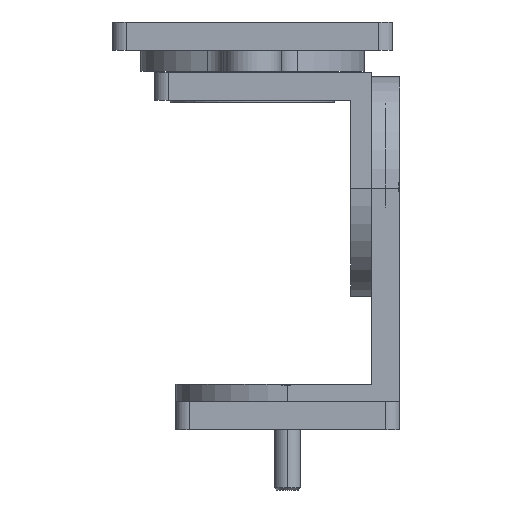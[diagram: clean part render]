
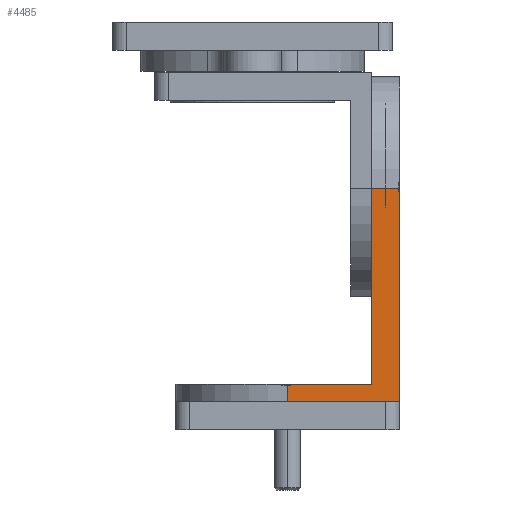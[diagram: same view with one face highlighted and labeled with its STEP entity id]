
A CAD part, left-side view. The second image highlights one B-rep face of the part: STEP entity #4485.
In plain terms, the highlighted planar face has unit normal (-1, 0, 0) as drawn and (0, 0, -1) by its records, which use the part's own axes.
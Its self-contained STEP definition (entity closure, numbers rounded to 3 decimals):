
#322 = LINE ( 'NONE', #5723, #709 ) ;
#483 = PLANE ( 'NONE',  #7676 ) ;
#644 = DIRECTION ( 'NONE',  ( 1., 0., 0. ) ) ;
#675 = LINE ( 'NONE', #7337, #2477 ) ;
#709 = VECTOR ( 'NONE', #5672, 1000. ) ;
#735 = VERTEX_POINT ( 'NONE', #1461 ) ;
#955 = VERTEX_POINT ( 'NONE', #5780 ) ;
#1461 = CARTESIAN_POINT ( 'NONE',  ( 6.35, 50.8, -25.4 ) ) ;
#1518 = ORIENTED_EDGE ( 'NONE', *, *, #2156, .F. ) ;
#1796 = CARTESIAN_POINT ( 'NONE',  ( 13.176, 25.876, -25.4 ) ) ;
#2068 = ORIENTED_EDGE ( 'NONE', *, *, #4199, .F. ) ;
#2156 = EDGE_CURVE ( 'NONE', #3973, #735, #7434, .T. ) ;
#2263 = VERTEX_POINT ( 'NONE', #5319 ) ;
#2437 = VECTOR ( 'NONE', #3209, 1000. ) ;
#2477 = VECTOR ( 'NONE', #3118, 1000. ) ;
#2748 = CARTESIAN_POINT ( 'NONE',  ( 0., 2.381, -25.4 ) ) ;
#3118 = DIRECTION ( 'NONE',  ( 0., -1., 0. ) ) ;
#3170 = LINE ( 'NONE', #4996, #3323 ) ;
#3209 = DIRECTION ( 'NONE',  ( 1., 0., 0. ) ) ;
#3323 = VECTOR ( 'NONE', #4385, 1000. ) ;
#3423 = CARTESIAN_POINT ( 'NONE',  ( 6.35, 6.35, -25.4 ) ) ;
#3430 = ORIENTED_EDGE ( 'NONE', *, *, #4329, .F. ) ;
#3653 = ORIENTED_EDGE ( 'NONE', *, *, #5377, .F. ) ;
#3858 = EDGE_LOOP ( 'NONE', ( #1518, #3430, #4687, #2068, #7038, #3653 ) ) ;
#3973 = VERTEX_POINT ( 'NONE', #3423 ) ;
#4061 = VECTOR ( 'NONE', #7510, 1000. ) ;
#4199 = EDGE_CURVE ( 'NONE', #7633, #2263, #5120, .T. ) ;
#4224 = CARTESIAN_POINT ( 'NONE',  ( 25.4, 25.876, -25.4 ) ) ;
#4329 = EDGE_CURVE ( 'NONE', #5523, #3973, #3170, .T. ) ;
#4385 = DIRECTION ( 'NONE',  ( -1., 0., 0. ) ) ;
#4485 = ADVANCED_FACE ( 'NONE', ( #4784 ), #483, .F. ) ;
#4687 = ORIENTED_EDGE ( 'NONE', *, *, #5020, .F. ) ;
#4784 = FACE_OUTER_BOUND ( 'NONE', #3858, .T. ) ;
#4870 = LINE ( 'NONE', #4224, #7820 ) ;
#4996 = CARTESIAN_POINT ( 'NONE',  ( 6.35, 6.35, -25.4 ) ) ;
#5006 = CARTESIAN_POINT ( 'NONE',  ( 6.35, 76.2, -25.4 ) ) ;
#5020 = EDGE_CURVE ( 'NONE', #2263, #5523, #4870, .T. ) ;
#5120 = LINE ( 'NONE', #7581, #2437 ) ;
#5319 = CARTESIAN_POINT ( 'NONE',  ( 25.4, 2.381, -25.4 ) ) ;
#5377 = EDGE_CURVE ( 'NONE', #735, #955, #322, .T. ) ;
#5430 = DIRECTION ( 'NONE',  ( 0., 0., 1. ) ) ;
#5523 = VERTEX_POINT ( 'NONE', #5932 ) ;
#5670 = EDGE_CURVE ( 'NONE', #955, #7633, #675, .T. ) ;
#5672 = DIRECTION ( 'NONE',  ( -1., 0., 0. ) ) ;
#5723 = CARTESIAN_POINT ( 'NONE',  ( 13.176, 50.8, -25.4 ) ) ;
#5780 = CARTESIAN_POINT ( 'NONE',  ( 0., 50.8, -25.4 ) ) ;
#5932 = CARTESIAN_POINT ( 'NONE',  ( 25.4, 6.35, -25.4 ) ) ;
#6683 = DIRECTION ( 'NONE',  ( 0., 1., 0. ) ) ;
#7038 = ORIENTED_EDGE ( 'NONE', *, *, #5670, .F. ) ;
#7337 = CARTESIAN_POINT ( 'NONE',  ( 0., 25.876, -25.4 ) ) ;
#7434 = LINE ( 'NONE', #5006, #4061 ) ;
#7510 = DIRECTION ( 'NONE',  ( 0., 1., 0. ) ) ;
#7581 = CARTESIAN_POINT ( 'NONE',  ( 13.176, 2.381, -25.4 ) ) ;
#7633 = VERTEX_POINT ( 'NONE', #2748 ) ;
#7676 = AXIS2_PLACEMENT_3D ( 'NONE', #1796, #5430, #644 ) ;
#7820 = VECTOR ( 'NONE', #6683, 1000. ) ;
